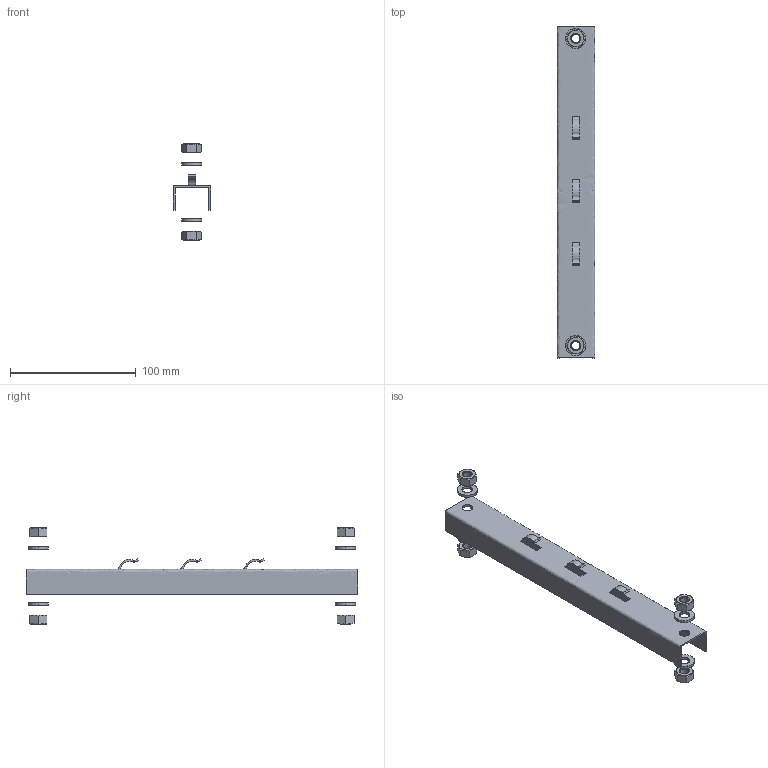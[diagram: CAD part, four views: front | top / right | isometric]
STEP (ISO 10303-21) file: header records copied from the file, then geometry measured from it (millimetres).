
FILE_DESCRIPTION(/* description */ (''),/* implementation_level */ '2;1');
FILE_NAME(/* name */ 'PZM200',/* time_stamp */ '2012-11-29T22:31:11+01:00',/* author */ (''),/* organization */ (''),/* preprocessor_version */ 'ST-DEVELOPER v10',/* originating_system */ '',/* authorisation */ '');
FILE_SCHEMA (('AUTOMOTIVE_DESIGN_CC2'));
Length unit declared in the file: millimetre
Products named in the file (1): 1
Bounding box: 30 x 264 x 76.64 mm (x, y, z)
Surface area: 40664.4 mm2 (no closed solid volume)
Topology: 0 solids, 126 shells, 155 faces, 650 edges, 596 vertices
Faces by surface type: bspline 104, plane 51
Entity records: 11807 total; most frequent: CARTESIAN_POINT 7536, ORIENTED_EDGE 704, EDGE_CURVE 646, VERTEX_POINT 588, B_SPLINE_CURVE_WITH_KNOTS 335, EDGE_LOOP 180, ADVANCED_FACE 155, FACE_OUTER_BOUND 155
